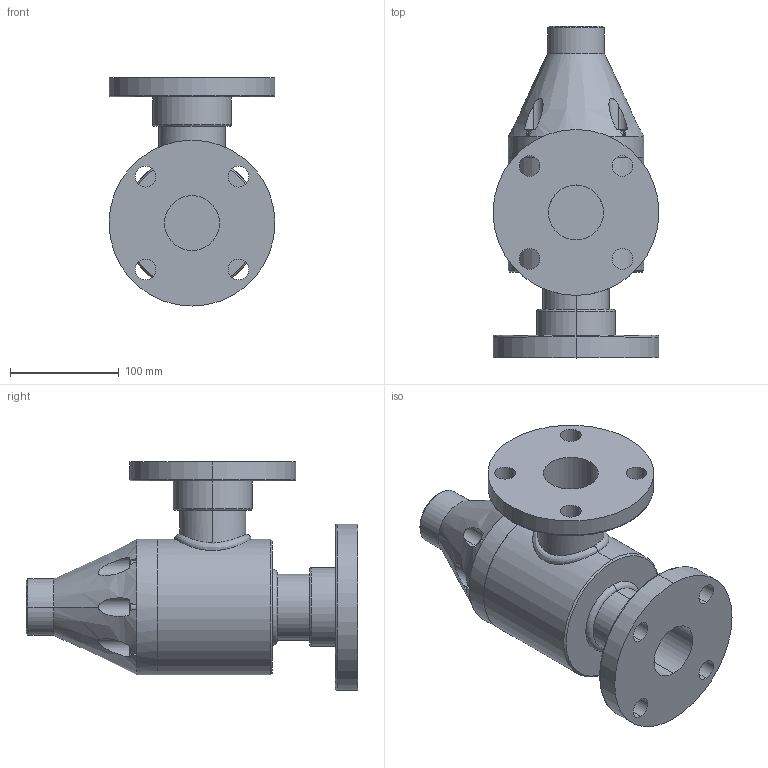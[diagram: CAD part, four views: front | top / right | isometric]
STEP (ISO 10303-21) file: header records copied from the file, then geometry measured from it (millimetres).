
FILE_DESCRIPTION (( 'STEP AP203' ), '1' );
FILE_NAME ('GBP2000_90-FLNG.STEP', '2016-02-12T10:21:53', ( '' ), ( '' ), 'SwSTEP 2.0', 'SolidWorks 2014', '' );
FILE_SCHEMA (( 'CONFIG_CONTROL_DESIGN' ));
Length unit declared in the file: inch
Products named in the file (2): GBP2000_90-FLNG
Bounding box: 152.4 x 304.8 x 209.55 mm (x, y, z)
Volume: 2834089 mm3; surface area: 233740.6 mm2
Topology: 1 solids, 1 shells, 235 faces, 582 edges, 373 vertices
Faces by surface type: plane 131, cylinder 70, cone 22, torus 10, bspline 2
Entity records: 9195 total; most frequent: CARTESIAN_POINT 3380, DIRECTION 1183, ORIENTED_EDGE 1164, EDGE_CURVE 582, AXIS2_PLACEMENT_3D 425, VERTEX_POINT 373, VECTOR 333, LINE 333
